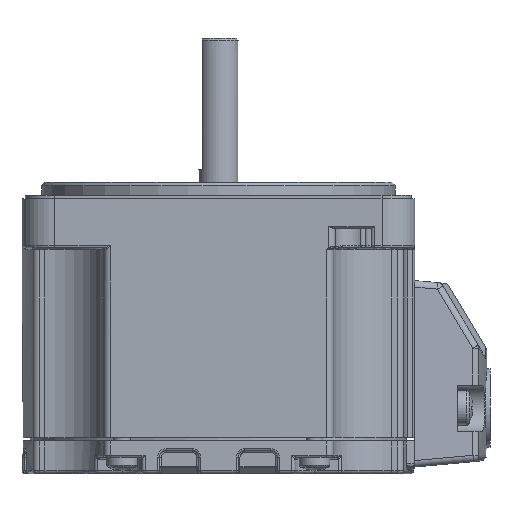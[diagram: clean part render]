
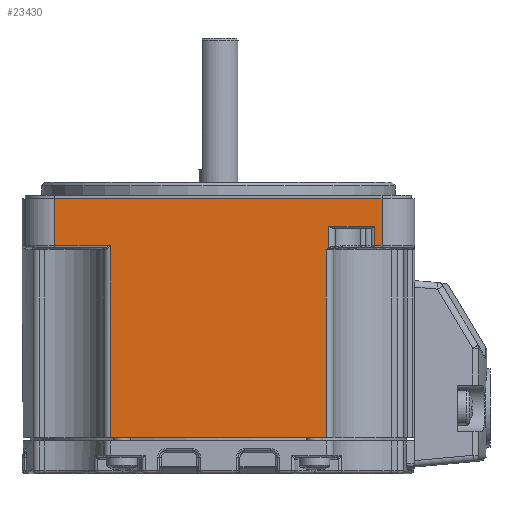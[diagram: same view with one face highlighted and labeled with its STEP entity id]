
A CAD part, left-side view. The second image highlights one B-rep face of the part: STEP entity #23430.
In plain terms, the highlighted planar face has unit normal (-1, 0, 0).
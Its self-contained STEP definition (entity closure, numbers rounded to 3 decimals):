
#18363=CARTESIAN_POINT('',(-60.,55.,-21.571));
#18364=VERTEX_POINT('',#18363);
#18372=CARTESIAN_POINT('',(-60.,55.,-14.371));
#18373=VERTEX_POINT('',#18372);
#18374=CARTESIAN_POINT('',(-60.,55.,-21.571));
#18375=DIRECTION('',(0.0,0.0,1.0));
#18376=VECTOR('',#18375,7.2);
#18377=LINE('',#18374,#18376);
#18378=EDGE_CURVE('',#18364,#18373,#18377,.T.);
#18429=CARTESIAN_POINT('',(-60.,5.,-14.371));
#18430=VERTEX_POINT('',#18429);
#18457=CARTESIAN_POINT('',(-60.,5.,-14.371));
#18458=DIRECTION('',(0.0,1.0,0.0));
#18459=VECTOR('',#18458,50.0);
#18460=LINE('',#18457,#18459);
#18461=EDGE_CURVE('',#18430,#18373,#18460,.T.);
#19545=CARTESIAN_POINT('',(-60.,13.5,-22.171));
#19546=VERTEX_POINT('',#19545);
#19554=CARTESIAN_POINT('',(-60.,13.5,-50.871));
#19555=VERTEX_POINT('',#19554);
#19556=CARTESIAN_POINT('',(-60.,13.5,-22.171));
#19557=DIRECTION('',(0.0,0.0,-1.0));
#19558=VECTOR('',#19557,28.7);
#19559=LINE('',#19556,#19558);
#19560=EDGE_CURVE('',#19546,#19555,#19559,.T.);
#19720=CARTESIAN_POINT('',(-60.,46.5,-50.871));
#19721=VERTEX_POINT('',#19720);
#19722=CARTESIAN_POINT('',(-60.,46.5,-50.871));
#19723=DIRECTION('',(0.0,-1.0,0.0));
#19724=VECTOR('',#19723,33.0);
#19725=LINE('',#19722,#19724);
#19726=EDGE_CURVE('',#19721,#19555,#19725,.T.);
#20317=CARTESIAN_POINT('',(-60.,5.,-21.571));
#20318=VERTEX_POINT('',#20317);
#20328=CARTESIAN_POINT('',(-60.,5.,-14.371));
#20329=DIRECTION('',(0.0,0.0,-1.0));
#20330=VECTOR('',#20329,7.2);
#20331=LINE('',#20328,#20330);
#20332=EDGE_CURVE('',#18430,#20318,#20331,.T.);
#20342=CARTESIAN_POINT('',(-60.,6.15,-21.571));
#20343=VERTEX_POINT('',#20342);
#20353=CARTESIAN_POINT('',(-60.,6.15,-18.571));
#20354=VERTEX_POINT('',#20353);
#20355=CARTESIAN_POINT('',(-60.,6.15,-18.571));
#20356=DIRECTION('',(0.0,0.0,-1.0));
#20357=VECTOR('',#20356,3.0);
#20358=LINE('',#20355,#20357);
#20359=EDGE_CURVE('',#20354,#20343,#20358,.T.);
#20577=CARTESIAN_POINT('',(-60.,13.15,-21.867));
#20578=VERTEX_POINT('',#20577);
#20609=CARTESIAN_POINT('',(-60.,13.15,-18.571));
#20610=VERTEX_POINT('',#20609);
#20622=CARTESIAN_POINT('',(-60.,13.15,-21.867));
#20623=DIRECTION('',(0.0,0.0,1.0));
#20624=VECTOR('',#20623,3.296);
#20625=LINE('',#20622,#20624);
#20626=EDGE_CURVE('',#20578,#20610,#20625,.T.);
#20744=CARTESIAN_POINT('',(-60.,5.,-21.571));
#20745=DIRECTION('',(0.0,1.0,0.0));
#20746=VECTOR('',#20745,1.15);
#20747=LINE('',#20744,#20746);
#20748=EDGE_CURVE('',#20318,#20343,#20747,.T.);
#21164=CARTESIAN_POINT('',(-60.,13.15,-21.867));
#21165=CARTESIAN_POINT('',(-60.,13.272,-21.96));
#21166=CARTESIAN_POINT('',(-60.,13.385,-22.064));
#21167=CARTESIAN_POINT('',(-60.,13.498,-22.169));
#21168=CARTESIAN_POINT('',(-60.,13.499,-22.17));
#21169=CARTESIAN_POINT('',(-60.,13.5,-22.171));
#21170=B_SPLINE_CURVE_WITH_KNOTS('',3,(#21164,#21165,#21166,#21167,#21168,#21169),.UNSPECIFIED.,.F.,.U.,(4,2,4),(0.0,0.046,0.046),.UNSPECIFIED.);
#21171=EDGE_CURVE('',#20578,#19546,#21170,.T.);
#22926=CARTESIAN_POINT('',(-60.,46.5,-21.571));
#22927=VERTEX_POINT('',#22926);
#22941=CARTESIAN_POINT('',(-60.,46.5,-21.571));
#22942=DIRECTION('',(0.0,1.0,0.0));
#22943=VECTOR('',#22942,8.5);
#22944=LINE('',#22941,#22943);
#22945=EDGE_CURVE('',#22927,#18364,#22944,.T.);
#23157=CARTESIAN_POINT('',(-60.,46.5,-21.571));
#23158=DIRECTION('',(0.0,0.0,-1.0));
#23159=VECTOR('',#23158,29.3);
#23160=LINE('',#23157,#23159);
#23161=EDGE_CURVE('',#22927,#19721,#23160,.T.);
#23406=CARTESIAN_POINT('',(-60.,60.,-14.371));
#23407=DIRECTION('',(-1.0,0.0,0.0));
#23408=DIRECTION('',(0.0,0.0,1.0));
#23409=AXIS2_PLACEMENT_3D('',#23406,#23407,#23408);
#23410=PLANE('',#23409);
#23411=ORIENTED_EDGE('',*,*,#20626,.T.);
#23412=CARTESIAN_POINT('',(-60.,6.15,-18.571));
#23413=DIRECTION('',(0.0,1.0,0.0));
#23414=VECTOR('',#23413,7.);
#23415=LINE('',#23412,#23414);
#23416=EDGE_CURVE('',#20354,#20610,#23415,.T.);
#23417=ORIENTED_EDGE('',*,*,#23416,.F.);
#23418=ORIENTED_EDGE('',*,*,#20359,.T.);
#23419=ORIENTED_EDGE('',*,*,#20748,.F.);
#23420=ORIENTED_EDGE('',*,*,#20332,.F.);
#23421=ORIENTED_EDGE('',*,*,#18461,.T.);
#23422=ORIENTED_EDGE('',*,*,#18378,.F.);
#23423=ORIENTED_EDGE('',*,*,#22945,.F.);
#23424=ORIENTED_EDGE('',*,*,#23161,.T.);
#23425=ORIENTED_EDGE('',*,*,#19726,.T.);
#23426=ORIENTED_EDGE('',*,*,#19560,.F.);
#23427=ORIENTED_EDGE('',*,*,#21171,.F.);
#23428=EDGE_LOOP('',(#23411,#23417,#23418,#23419,#23420,#23421,#23422,#23423,#23424,#23425,#23426,#23427));
#23429=FACE_OUTER_BOUND('',#23428,.T.);
#23430=ADVANCED_FACE('',(#23429),#23410,.T.);
